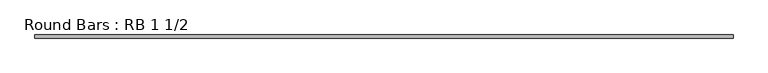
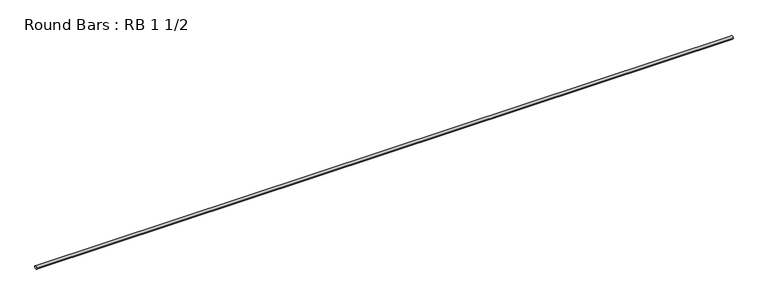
"""IFC4 building model written with IfcOpenShell, lengths in millimetres: member geometry, Round Bars : RB 1 1/2."""

from ifc_helpers import new_model, si_unit, point, frame, origin, origin_2d, place, context, project, spatial, circle_curve, trimmed, segment, composite_curve, outline, extrude, source, transform, mapped, element, save


def round_bars_rb_1_1_2_035370a4(model_context):
    return source(origin(), model_context, "Body", "SweptSolid", [
        extrude(outline(composite_curve([segment(trimmed(circle_curve(origin_2d(), 19.05), [point((19.05, 0.0))], [point((-19.05, 0.0))], False, "CARTESIAN"), True, "CONTINUOUS"), segment(trimmed(circle_curve(origin_2d(), 19.05), [point((-19.05, 0.0))], [point((19.05, 0.0))], False, "CARTESIAN"), True, "CONTINUOUS")], self_intersect=False)), frame((-4251.8025659, 0.0, 0.0), z_axis=(1.0, 0.0, 0.0), x_axis=(0.0, 1.0, 0.0)), (0.0, 0.0, 1.0), 8470.2712088),
    ])


if __name__ == "__main__":
    model = new_model("IFC4")
    model_context = context("Model", 3, world=origin())
    ifc_project = project(units=[si_unit("LENGTHUNIT", "METRE", prefix="MILLI")], contexts=[model_context])
    site = spatial("IfcSite", under=ifc_project)
    building = spatial("IfcBuilding", under=site)
    placement = place(None, origin())
    round_bars_rb_1_1_2_shape = round_bars_rb_1_1_2_035370a4(model_context)
    element("IfcMember", 1, ObjectType="Round Bars : RB 1 1/2", at=placement, inside=building, context=model_context, shape_type="MappedRepresentation", body=[
        mapped(round_bars_rb_1_1_2_shape, transform((0.0, 0.0, 0.0), x_axis=(1.0, 0.0, 0.0), y_axis=(0.0, 1.0, 0.0), z_axis=(0.0, 0.0, 1.0))),
    ])
    save(model, "model.ifc")
